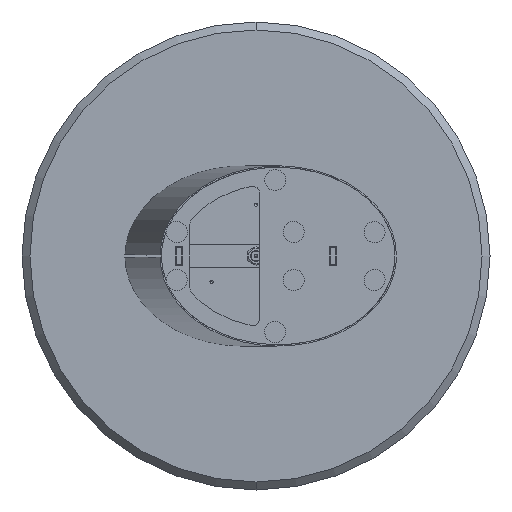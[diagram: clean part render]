
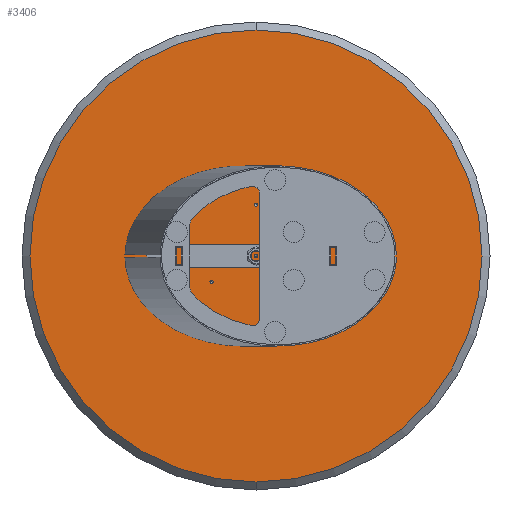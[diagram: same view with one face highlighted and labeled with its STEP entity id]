
A CAD part, front view. The second image highlights one B-rep face of the part: STEP entity #3406.
In plain terms, the highlighted planar face has unit normal (0, -1, 0).
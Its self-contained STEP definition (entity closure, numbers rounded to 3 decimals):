
#98 = ORIENTED_EDGE ( 'NONE', *, *, #2381, .T. ) ;
#207 = EDGE_CURVE ( 'NONE', #673, #6393, #2491, .T. ) ;
#245 = CIRCLE ( 'NONE', #2003, 3.4 ) ;
#255 = DIRECTION ( 'NONE',  ( 0., -1., 0. ) ) ;
#534 = AXIS2_PLACEMENT_3D ( 'NONE', #1714, #4299, #6284 ) ;
#612 = FACE_BOUND ( 'NONE', #5144, .T. ) ;
#673 = VERTEX_POINT ( 'NONE', #6066 ) ;
#692 = VERTEX_POINT ( 'NONE', #3995 ) ;
#714 = DIRECTION ( 'NONE',  ( 0., 0., -1. ) ) ;
#756 = DIRECTION ( 'NONE',  ( 0., -1., 0. ) ) ;
#767 = DIRECTION ( 'NONE',  ( 0., 0., -1. ) ) ;
#972 = VERTEX_POINT ( 'NONE', #1648 ) ;
#1005 = AXIS2_PLACEMENT_3D ( 'NONE', #5188, #756, #714 ) ;
#1075 = ORIENTED_EDGE ( 'NONE', *, *, #5457, .F. ) ;
#1085 = EDGE_CURVE ( 'NONE', #6393, #673, #3710, .T. ) ;
#1134 = ORIENTED_EDGE ( 'NONE', *, *, #6769, .F. ) ;
#1178 = DIRECTION ( 'NONE',  ( 0., 0., -1. ) ) ;
#1314 = AXIS2_PLACEMENT_3D ( 'NONE', #3779, #7630, #7545 ) ;
#1518 = DIRECTION ( 'NONE',  ( 0., -1., 0. ) ) ;
#1565 = DIRECTION ( 'NONE',  ( 0., 0., -1. ) ) ;
#1648 = CARTESIAN_POINT ( 'NONE',  ( 0., 0., 106.297 ) ) ;
#1714 = CARTESIAN_POINT ( 'NONE',  ( 0., 0., 0. ) ) ;
#1720 = DIRECTION ( 'NONE',  ( 0., -1., 0. ) ) ;
#1737 = CIRCLE ( 'NONE', #6054, 3.4 ) ;
#1741 = CIRCLE ( 'NONE', #6203, 3.4 ) ;
#1744 = PLANE ( 'NONE',  #2897 ) ;
#1853 = CIRCLE ( 'NONE', #6581, 3.4 ) ;
#1887 = VERTEX_POINT ( 'NONE', #7421 ) ;
#2003 = AXIS2_PLACEMENT_3D ( 'NONE', #3430, #6011, #1565 ) ;
#2107 = CARTESIAN_POINT ( 'NONE',  ( 95., 0., -54.848 ) ) ;
#2160 = ORIENTED_EDGE ( 'NONE', *, *, #207, .F. ) ;
#2295 = EDGE_LOOP ( 'NONE', ( #6779, #98 ) ) ;
#2381 = EDGE_CURVE ( 'NONE', #1887, #3909, #2887, .T. ) ;
#2406 = DIRECTION ( 'NONE',  ( 0., -1., 0. ) ) ;
#2491 = CIRCLE ( 'NONE', #6120, 3.4 ) ;
#2632 = EDGE_LOOP ( 'NONE', ( #7886, #4033 ) ) ;
#2887 = CIRCLE ( 'NONE', #1005, 483. ) ;
#2897 = AXIS2_PLACEMENT_3D ( 'NONE', #3143, #5127, #4453 ) ;
#2930 = VERTEX_POINT ( 'NONE', #7666 ) ;
#2957 = VERTEX_POINT ( 'NONE', #6473 ) ;
#2965 = AXIS2_PLACEMENT_3D ( 'NONE', #2107, #255, #767 ) ;
#3035 = CARTESIAN_POINT ( 'NONE',  ( 0., 0., 109.697 ) ) ;
#3060 = ORIENTED_EDGE ( 'NONE', *, *, #8283, .F. ) ;
#3143 = CARTESIAN_POINT ( 'NONE',  ( 0., 0., 0. ) ) ;
#3341 = DIRECTION ( 'NONE',  ( 0., -1., 0. ) ) ;
#3406 = ADVANCED_FACE ( 'NONE', ( #6784, #3567, #6146, #8103, #612 ), #1744, .T. ) ;
#3430 = CARTESIAN_POINT ( 'NONE',  ( 0., 0., 109.697 ) ) ;
#3512 = ORIENTED_EDGE ( 'NONE', *, *, #1085, .F. ) ;
#3567 = FACE_BOUND ( 'NONE', #7281, .T. ) ;
#3680 = CARTESIAN_POINT ( 'NONE',  ( 95., 0., -51.448 ) ) ;
#3710 = CIRCLE ( 'NONE', #5061, 3.4 ) ;
#3779 = CARTESIAN_POINT ( 'NONE',  ( 95., 0., -54.848 ) ) ;
#3909 = VERTEX_POINT ( 'NONE', #5026 ) ;
#3995 = CARTESIAN_POINT ( 'NONE',  ( -95., 0., -51.448 ) ) ;
#4033 = ORIENTED_EDGE ( 'NONE', *, *, #5170, .F. ) ;
#4085 = CARTESIAN_POINT ( 'NONE',  ( 0., 0., -3.4 ) ) ;
#4299 = DIRECTION ( 'NONE',  ( 0., -1., 0. ) ) ;
#4453 = DIRECTION ( 'NONE',  ( 0., 0., -1. ) ) ;
#4570 = DIRECTION ( 'NONE',  ( 0., 0., -1. ) ) ;
#4734 = EDGE_LOOP ( 'NONE', ( #6579, #3060 ) ) ;
#5026 = CARTESIAN_POINT ( 'NONE',  ( 0., 0., 483. ) ) ;
#5061 = AXIS2_PLACEMENT_3D ( 'NONE', #5608, #1720, #1178 ) ;
#5127 = DIRECTION ( 'NONE',  ( 0., -1., 0. ) ) ;
#5144 = EDGE_LOOP ( 'NONE', ( #3512, #2160 ) ) ;
#5170 = EDGE_CURVE ( 'NONE', #6898, #2930, #7530, .T. ) ;
#5188 = CARTESIAN_POINT ( 'NONE',  ( 0., 0., 0. ) ) ;
#5457 = EDGE_CURVE ( 'NONE', #2957, #972, #1853, .T. ) ;
#5605 = DIRECTION ( 'NONE',  ( 0., -1., 0. ) ) ;
#5608 = CARTESIAN_POINT ( 'NONE',  ( 0., 0., 0. ) ) ;
#5777 = DIRECTION ( 'NONE',  ( 0., 0., -1. ) ) ;
#5930 = CIRCLE ( 'NONE', #2965, 3.4 ) ;
#6011 = DIRECTION ( 'NONE',  ( 0., -1., 0. ) ) ;
#6054 = AXIS2_PLACEMENT_3D ( 'NONE', #8203, #2406, #7567 ) ;
#6066 = CARTESIAN_POINT ( 'NONE',  ( 0., 0., 3.4 ) ) ;
#6120 = AXIS2_PLACEMENT_3D ( 'NONE', #6669, #3341, #7992 ) ;
#6146 = FACE_BOUND ( 'NONE', #2632, .T. ) ;
#6203 = AXIS2_PLACEMENT_3D ( 'NONE', #7318, #1518, #4570 ) ;
#6284 = DIRECTION ( 'NONE',  ( 0., 0., -1. ) ) ;
#6335 = VERTEX_POINT ( 'NONE', #7977 ) ;
#6393 = VERTEX_POINT ( 'NONE', #4085 ) ;
#6473 = CARTESIAN_POINT ( 'NONE',  ( 0., 0., 113.097 ) ) ;
#6579 = ORIENTED_EDGE ( 'NONE', *, *, #7440, .F. ) ;
#6581 = AXIS2_PLACEMENT_3D ( 'NONE', #3035, #5605, #5777 ) ;
#6669 = CARTESIAN_POINT ( 'NONE',  ( 0., 0., 0. ) ) ;
#6769 = EDGE_CURVE ( 'NONE', #972, #2957, #245, .T. ) ;
#6779 = ORIENTED_EDGE ( 'NONE', *, *, #7838, .T. ) ;
#6784 = FACE_BOUND ( 'NONE', #4734, .T. ) ;
#6898 = VERTEX_POINT ( 'NONE', #3680 ) ;
#7281 = EDGE_LOOP ( 'NONE', ( #1134, #1075 ) ) ;
#7318 = CARTESIAN_POINT ( 'NONE',  ( -95., 0., -54.848 ) ) ;
#7417 = CIRCLE ( 'NONE', #534, 483. ) ;
#7421 = CARTESIAN_POINT ( 'NONE',  ( 0., 0., -483. ) ) ;
#7440 = EDGE_CURVE ( 'NONE', #6335, #692, #1737, .T. ) ;
#7530 = CIRCLE ( 'NONE', #1314, 3.4 ) ;
#7545 = DIRECTION ( 'NONE',  ( 0., 0., -1. ) ) ;
#7567 = DIRECTION ( 'NONE',  ( 0., 0., -1. ) ) ;
#7630 = DIRECTION ( 'NONE',  ( 0., -1., 0. ) ) ;
#7666 = CARTESIAN_POINT ( 'NONE',  ( 95., 0., -58.248 ) ) ;
#7838 = EDGE_CURVE ( 'NONE', #3909, #1887, #7417, .T. ) ;
#7886 = ORIENTED_EDGE ( 'NONE', *, *, #8181, .F. ) ;
#7977 = CARTESIAN_POINT ( 'NONE',  ( -95., 0., -58.248 ) ) ;
#7992 = DIRECTION ( 'NONE',  ( 0., 0., -1. ) ) ;
#8103 = FACE_OUTER_BOUND ( 'NONE', #2295, .T. ) ;
#8181 = EDGE_CURVE ( 'NONE', #2930, #6898, #5930, .T. ) ;
#8203 = CARTESIAN_POINT ( 'NONE',  ( -95., 0., -54.848 ) ) ;
#8283 = EDGE_CURVE ( 'NONE', #692, #6335, #1741, .T. ) ;
